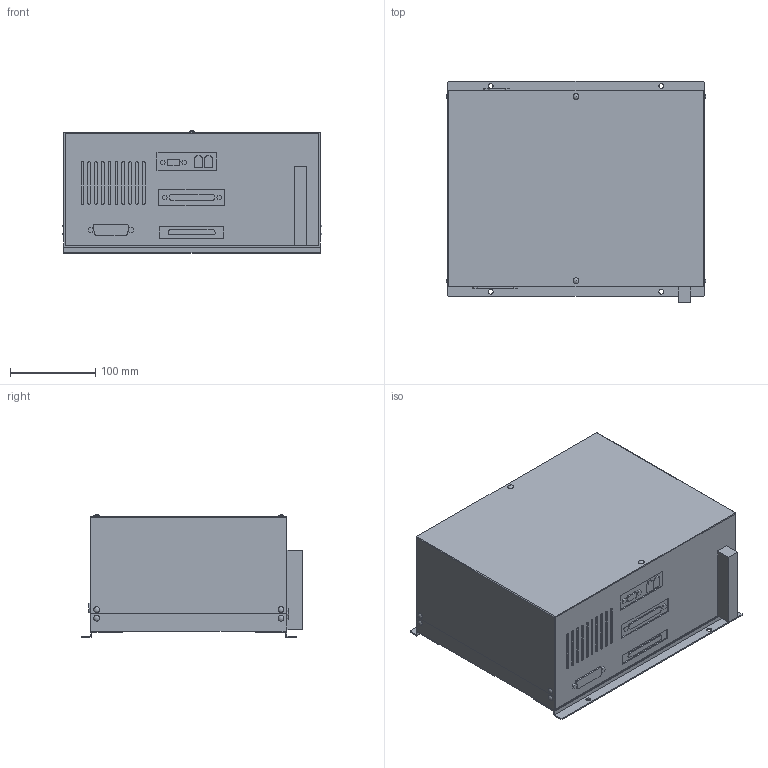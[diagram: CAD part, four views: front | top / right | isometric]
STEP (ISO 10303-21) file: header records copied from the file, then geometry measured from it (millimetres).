
FILE_DESCRIPTION(/* description */ (''),/* implementation_level */ '2;1');
FILE_NAME(/* name */ 'C:\Users\h-mitaka\Desktop\\X2\FF8EFF70FF91FF8DFF9FFF70FF7CFF9E7528\X0\\2D-07316\C4451-07316.stp',/* time_stamp */ '2016-11-07T11:24:58+09:00',/* author */ ('h-mitaka'),/* organization */ (''),/* preprocessor_version */ 'ST-DEVELOPER v16.1',/* originating_system */ 'Autodesk Inventor 2016',/* authorisation */ '');
FILE_SCHEMA (('AUTOMOTIVE_DESIGN { 1 0 10303 214 3 1 1 }'));
Length unit declared in the file: millimetre
Products named in the file (1): C4451-07316
Bounding box: 303.78 x 259.5 x 143.9 mm (x, y, z)
Volume: 9344252.2 mm3; surface area: 315506.3 mm2
Topology: 1 solids, 1 shells, 334 faces, 813 edges, 534 vertices
Faces by surface type: plane 239, cylinder 75, torus 10, sphere 10
Full cylindrical faces by diameter (mm): 4.5 x4, 5.8 x4, 6.9 x10, 15 x1, 17 x1, 21 x1, 31 x1, 35 x1, 45 x1, 49 x1, 59 x1, 63 x1, 73 x1, 77 x1
Entity records: 9522 total; most frequent: CARTESIAN_POINT 1637, DIRECTION 1600, ORIENTED_EDGE 1540, EDGE_CURVE 770, LINE 610, VECTOR 610, VERTEX_POINT 532, AXIS2_PLACEMENT_3D 495
